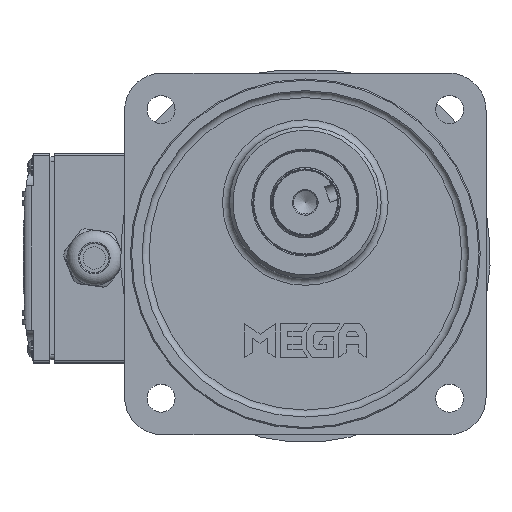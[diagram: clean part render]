
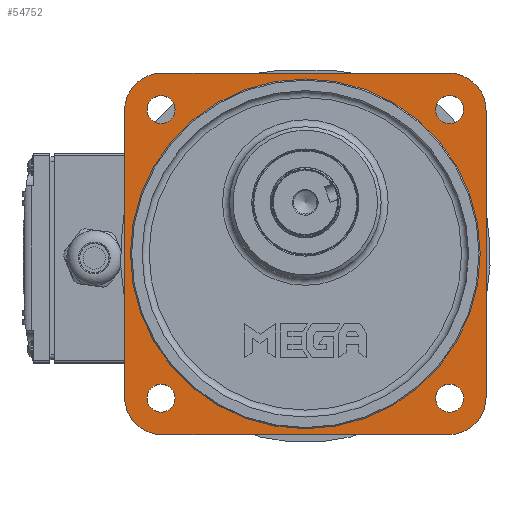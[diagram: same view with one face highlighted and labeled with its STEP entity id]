
A CAD part, top view. The second image highlights one B-rep face of the part: STEP entity #54752.
In plain terms, the highlighted planar face has unit normal (0, 0, 1).
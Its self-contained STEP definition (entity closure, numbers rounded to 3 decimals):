
#1189=FACE_BOUND('',#8800,.T.);
#1190=FACE_BOUND('',#8801,.T.);
#1191=FACE_BOUND('',#8802,.T.);
#1192=FACE_BOUND('',#8803,.T.);
#1193=FACE_BOUND('',#8804,.T.);
#2536=PLANE('',#60075);
#5443=FACE_OUTER_BOUND('',#8799,.T.);
#8799=EDGE_LOOP('',(#45835,#45836,#45837,#45838,#45839,#45840,#45841,#45842));
#8800=EDGE_LOOP('',(#45843));
#8801=EDGE_LOOP('',(#45844));
#8802=EDGE_LOOP('',(#45845));
#8803=EDGE_LOOP('',(#45846));
#8804=EDGE_LOOP('',(#45847));
#12048=CIRCLE('',#60073,75.);
#12050=CIRCLE('',#60076,16.);
#12051=CIRCLE('',#60077,16.);
#12052=CIRCLE('',#60078,16.);
#12053=CIRCLE('',#60079,16.);
#12054=CIRCLE('',#60080,6.);
#12055=CIRCLE('',#60081,6.);
#12056=CIRCLE('',#60082,6.);
#12057=CIRCLE('',#60083,6.);
#14890=LINE('',#118328,#17876);
#14891=LINE('',#118332,#17877);
#14892=LINE('',#118336,#17878);
#14893=LINE('',#118340,#17879);
#17876=VECTOR('',#72910,10.);
#17877=VECTOR('',#72913,10.);
#17878=VECTOR('',#72916,10.);
#17879=VECTOR('',#72919,10.);
#24113=VERTEX_POINT('',#118320);
#24115=VERTEX_POINT('',#118326);
#24116=VERTEX_POINT('',#118327);
#24117=VERTEX_POINT('',#118329);
#24118=VERTEX_POINT('',#118331);
#24119=VERTEX_POINT('',#118333);
#24120=VERTEX_POINT('',#118335);
#24121=VERTEX_POINT('',#118337);
#24122=VERTEX_POINT('',#118339);
#24123=VERTEX_POINT('',#118342);
#24124=VERTEX_POINT('',#118344);
#24125=VERTEX_POINT('',#118346);
#24126=VERTEX_POINT('',#118348);
#31484=EDGE_CURVE('',#24113,#24113,#12048,.T.);
#31487=EDGE_CURVE('',#24115,#24116,#14890,.T.);
#31488=EDGE_CURVE('',#24117,#24115,#12050,.T.);
#31489=EDGE_CURVE('',#24118,#24117,#14891,.T.);
#31490=EDGE_CURVE('',#24119,#24118,#12051,.T.);
#31491=EDGE_CURVE('',#24120,#24119,#14892,.T.);
#31492=EDGE_CURVE('',#24121,#24120,#12052,.T.);
#31493=EDGE_CURVE('',#24122,#24121,#14893,.T.);
#31494=EDGE_CURVE('',#24116,#24122,#12053,.T.);
#31495=EDGE_CURVE('',#24123,#24123,#12054,.T.);
#31496=EDGE_CURVE('',#24124,#24124,#12055,.T.);
#31497=EDGE_CURVE('',#24125,#24125,#12056,.T.);
#31498=EDGE_CURVE('',#24126,#24126,#12057,.T.);
#45835=ORIENTED_EDGE('',*,*,#31487,.F.);
#45836=ORIENTED_EDGE('',*,*,#31488,.F.);
#45837=ORIENTED_EDGE('',*,*,#31489,.F.);
#45838=ORIENTED_EDGE('',*,*,#31490,.F.);
#45839=ORIENTED_EDGE('',*,*,#31491,.F.);
#45840=ORIENTED_EDGE('',*,*,#31492,.F.);
#45841=ORIENTED_EDGE('',*,*,#31493,.F.);
#45842=ORIENTED_EDGE('',*,*,#31494,.F.);
#45843=ORIENTED_EDGE('',*,*,#31495,.F.);
#45844=ORIENTED_EDGE('',*,*,#31496,.F.);
#45845=ORIENTED_EDGE('',*,*,#31497,.F.);
#45846=ORIENTED_EDGE('',*,*,#31498,.F.);
#45847=ORIENTED_EDGE('',*,*,#31484,.F.);
#54752=ADVANCED_FACE('',(#5443,#1189,#1190,#1191,#1192,#1193),#2536,.F.);
#60073=AXIS2_PLACEMENT_3D('',#118321,#72903,#72904);
#60075=AXIS2_PLACEMENT_3D('',#118325,#72908,#72909);
#60076=AXIS2_PLACEMENT_3D('',#118330,#72911,#72912);
#60077=AXIS2_PLACEMENT_3D('',#118334,#72914,#72915);
#60078=AXIS2_PLACEMENT_3D('',#118338,#72917,#72918);
#60079=AXIS2_PLACEMENT_3D('',#118341,#72920,#72921);
#60080=AXIS2_PLACEMENT_3D('',#118343,#72922,#72923);
#60081=AXIS2_PLACEMENT_3D('',#118345,#72924,#72925);
#60082=AXIS2_PLACEMENT_3D('',#118347,#72926,#72927);
#60083=AXIS2_PLACEMENT_3D('',#118349,#72928,#72929);
#72903=DIRECTION('center_axis',(0.,0.,1.));
#72904=DIRECTION('ref_axis',(-1.,0.,0.));
#72908=DIRECTION('center_axis',(0.,0.,-1.));
#72909=DIRECTION('ref_axis',(-1.,0.,0.));
#72910=DIRECTION('',(1.,0.,0.));
#72911=DIRECTION('center_axis',(0.,0.,-1.));
#72912=DIRECTION('ref_axis',(0.,1.,0.));
#72913=DIRECTION('',(0.,1.,0.));
#72914=DIRECTION('center_axis',(0.,0.,-1.));
#72915=DIRECTION('ref_axis',(-1.,0.,0.));
#72916=DIRECTION('',(-1.,0.,0.));
#72917=DIRECTION('center_axis',(0.,0.,-1.));
#72918=DIRECTION('ref_axis',(0.,-1.,0.));
#72919=DIRECTION('',(0.,-1.,0.));
#72920=DIRECTION('center_axis',(0.,0.,-1.));
#72921=DIRECTION('ref_axis',(1.,0.,0.));
#72922=DIRECTION('center_axis',(0.,0.,1.));
#72923=DIRECTION('ref_axis',(-1.,0.,0.));
#72924=DIRECTION('center_axis',(0.,0.,1.));
#72925=DIRECTION('ref_axis',(-1.,0.,0.));
#72926=DIRECTION('center_axis',(0.,0.,1.));
#72927=DIRECTION('ref_axis',(-1.,0.,0.));
#72928=DIRECTION('center_axis',(0.,0.,1.));
#72929=DIRECTION('ref_axis',(-1.,0.,0.));
#118320=CARTESIAN_POINT('',(71.734,-3.929,40.5));
#118321=CARTESIAN_POINT('Origin',(-3.266,-3.929,40.5));
#118325=CARTESIAN_POINT('Origin',(-3.266,-3.929,40.5));
#118326=CARTESIAN_POINT('',(-64.766,73.571,40.5));
#118327=CARTESIAN_POINT('',(58.234,73.571,40.5));
#118328=CARTESIAN_POINT('',(-34.016,73.571,40.5));
#118329=CARTESIAN_POINT('',(-80.766,57.571,40.5));
#118330=CARTESIAN_POINT('Origin',(-64.766,57.571,40.5));
#118331=CARTESIAN_POINT('',(-80.766,-65.429,40.5));
#118332=CARTESIAN_POINT('',(-80.766,-34.679,40.5));
#118333=CARTESIAN_POINT('',(-64.766,-81.429,40.5));
#118334=CARTESIAN_POINT('Origin',(-64.766,-65.429,40.5));
#118335=CARTESIAN_POINT('',(58.234,-81.429,40.5));
#118336=CARTESIAN_POINT('',(27.484,-81.429,40.5));
#118337=CARTESIAN_POINT('',(74.234,-65.429,40.5));
#118338=CARTESIAN_POINT('Origin',(58.234,-65.429,40.5));
#118339=CARTESIAN_POINT('',(74.234,57.571,40.5));
#118340=CARTESIAN_POINT('',(74.234,26.821,40.5));
#118341=CARTESIAN_POINT('Origin',(58.234,57.571,40.5));
#118342=CARTESIAN_POINT('',(64.606,-65.8,40.5));
#118343=CARTESIAN_POINT('Origin',(58.606,-65.8,40.5));
#118344=CARTESIAN_POINT('',(-59.138,-65.8,40.5));
#118345=CARTESIAN_POINT('Origin',(-65.138,-65.8,40.5));
#118346=CARTESIAN_POINT('',(64.606,57.943,40.5));
#118347=CARTESIAN_POINT('Origin',(58.606,57.943,40.5));
#118348=CARTESIAN_POINT('',(-59.138,57.943,40.5));
#118349=CARTESIAN_POINT('Origin',(-65.138,57.943,40.5));
